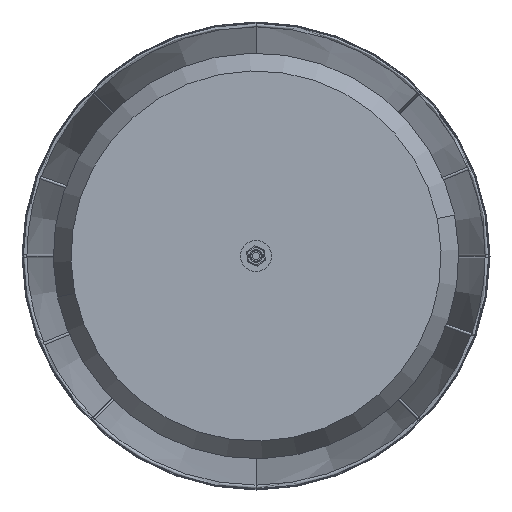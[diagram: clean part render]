
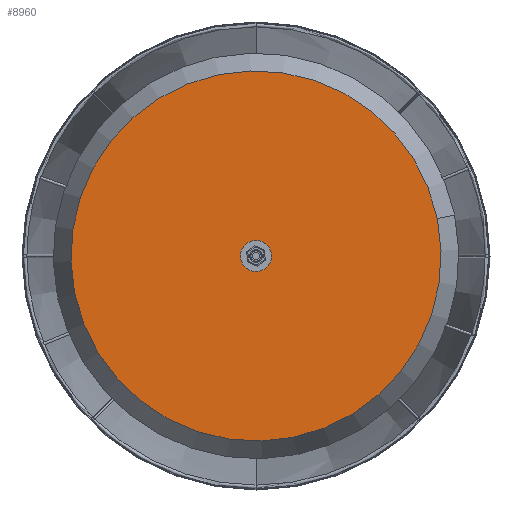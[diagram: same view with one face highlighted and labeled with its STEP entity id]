
A CAD part, front view. The second image highlights one B-rep face of the part: STEP entity #8960.
In plain terms, the highlighted planar face has unit normal (0, -1, 0).
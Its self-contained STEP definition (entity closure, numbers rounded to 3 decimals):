
#143 = CARTESIAN_POINT ( 'NONE',  ( 0., -30., 0. ) ) ;
#229 = DIRECTION ( 'NONE',  ( 0., 0., -1. ) ) ;
#250 = EDGE_CURVE ( 'NONE', #1747, #9971, #8145, .T. ) ;
#471 = CARTESIAN_POINT ( 'NONE',  ( 0., -30., 0. ) ) ;
#509 = FACE_OUTER_BOUND ( 'NONE', #1289, .T. ) ;
#683 = DIRECTION ( 'NONE',  ( 0., -1., 0. ) ) ;
#1289 = EDGE_LOOP ( 'NONE', ( #3449, #1592 ) ) ;
#1452 = ORIENTED_EDGE ( 'NONE', *, *, #250, .F. ) ;
#1592 = ORIENTED_EDGE ( 'NONE', *, *, #4340, .T. ) ;
#1700 = PLANE ( 'NONE',  #11324 ) ;
#1727 = CARTESIAN_POINT ( 'NONE',  ( 0., -30., 0. ) ) ;
#1747 = VERTEX_POINT ( 'NONE', #9629 ) ;
#2349 = DIRECTION ( 'NONE',  ( 0., 0., -1. ) ) ;
#2773 = DIRECTION ( 'NONE',  ( 0., 1., 0. ) ) ;
#3449 = ORIENTED_EDGE ( 'NONE', *, *, #6130, .T. ) ;
#3524 = AXIS2_PLACEMENT_3D ( 'NONE', #143, #4396, #2349 ) ;
#3612 = CIRCLE ( 'NONE', #3524, 178. ) ;
#3755 = DIRECTION ( 'NONE',  ( 0., 0., -1. ) ) ;
#3848 = DIRECTION ( 'NONE',  ( 0., 0., 1. ) ) ;
#4340 = EDGE_CURVE ( 'NONE', #12534, #5894, #13497, .T. ) ;
#4396 = DIRECTION ( 'NONE',  ( 0., -1., 0. ) ) ;
#4912 = ORIENTED_EDGE ( 'NONE', *, *, #6077, .F. ) ;
#5062 = CARTESIAN_POINT ( 'NONE',  ( 0., -30., 178. ) ) ;
#5596 = AXIS2_PLACEMENT_3D ( 'NONE', #1727, #683, #9187 ) ;
#5894 = VERTEX_POINT ( 'NONE', #5062 ) ;
#6003 = CARTESIAN_POINT ( 'NONE',  ( 0., -30., -178. ) ) ;
#6077 = EDGE_CURVE ( 'NONE', #9971, #1747, #12105, .T. ) ;
#6097 = AXIS2_PLACEMENT_3D ( 'NONE', #9644, #6623, #229 ) ;
#6130 = EDGE_CURVE ( 'NONE', #5894, #12534, #3612, .T. ) ;
#6623 = DIRECTION ( 'NONE',  ( 0., -1., 0. ) ) ;
#8145 = CIRCLE ( 'NONE', #5596, 15. ) ;
#8960 = ADVANCED_FACE ( 'NONE', ( #11865, #509 ), #1700, .F. ) ;
#9172 = EDGE_LOOP ( 'NONE', ( #4912, #1452 ) ) ;
#9187 = DIRECTION ( 'NONE',  ( 0., 0., -1. ) ) ;
#9540 = CARTESIAN_POINT ( 'NONE',  ( 0., -30., -15. ) ) ;
#9629 = CARTESIAN_POINT ( 'NONE',  ( 0., -30., 15. ) ) ;
#9635 = AXIS2_PLACEMENT_3D ( 'NONE', #471, #10026, #3755 ) ;
#9644 = CARTESIAN_POINT ( 'NONE',  ( 0., -30., 0. ) ) ;
#9971 = VERTEX_POINT ( 'NONE', #9540 ) ;
#10026 = DIRECTION ( 'NONE',  ( 0., -1., 0. ) ) ;
#11324 = AXIS2_PLACEMENT_3D ( 'NONE', #13538, #2773, #3848 ) ;
#11865 = FACE_BOUND ( 'NONE', #9172, .T. ) ;
#12105 = CIRCLE ( 'NONE', #6097, 15. ) ;
#12534 = VERTEX_POINT ( 'NONE', #6003 ) ;
#13497 = CIRCLE ( 'NONE', #9635, 178. ) ;
#13538 = CARTESIAN_POINT ( 'NONE',  ( -178., -30., 0. ) ) ;
